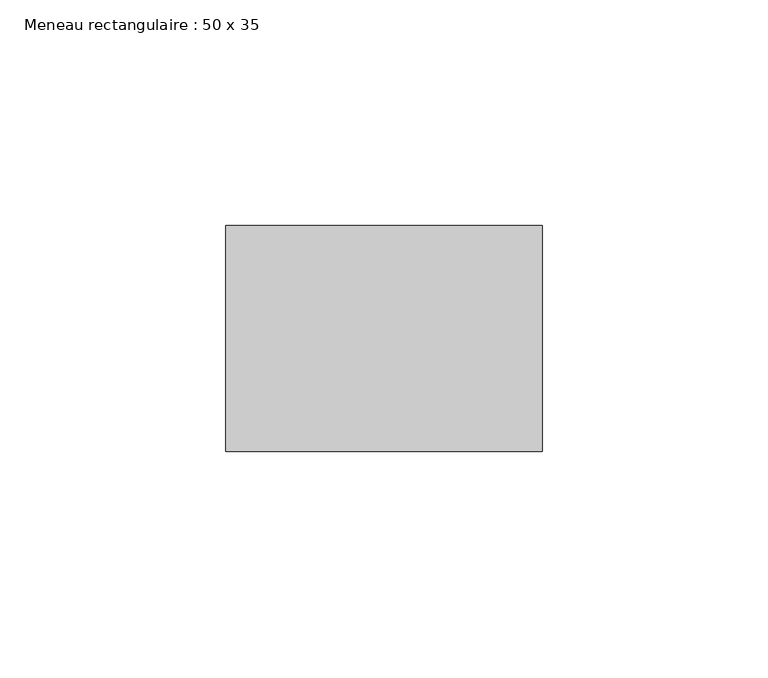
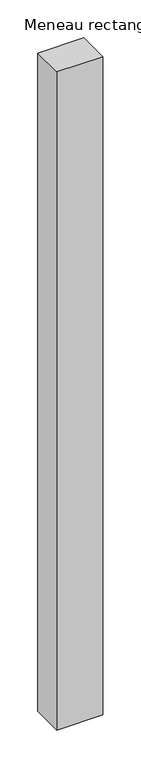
"""IFC4 building model written with IfcOpenShell, lengths in millimetres: member geometry, Meneau rectangulaire : 50 x 35."""

import ifcopenshell
import ifcopenshell.guid

model = None  # the IFC model being written
_history = None  # IfcOwnerHistory: only IFC2X3 demands one
_inside = {}  # id of a spatial element -> (the spatial element, [elements in it])
_under = {}  # id of a project, library or spatial element -> (it, [spatial elements below it])
_declared = {}  # id of a project -> (the project, [libraries it declares])
_typed = {}  # id of a type object -> (the type object, [elements of that type])
_made_of = {}  # id of a material, layer set ... -> (it, [elements and type objects made of it])


def new_model(schema):
    """Start an empty IFC model of exactly this schema.

    Asked for "IFC4X3", IfcOpenShell would pick the latest addendum, in which some entities
    have other attributes; the version numbers below select the first issue.
    IFC2X3 requires an IfcOwnerHistory on every rooted entity: one is made here for all.
    """
    global model, _history
    if schema == "IFC4X3":
        model = ifcopenshell.file(schema_version=(4, 3, 0, 0))
    else:
        model = ifcopenshell.file(schema=schema)
    _inside.clear()
    _under.clear()
    _declared.clear()
    _typed.clear()
    _made_of.clear()
    _history = None
    if model.schema == "IFC2X3":
        org = make("IfcOrganization", Name="unknown")
        user = make(
            "IfcPersonAndOrganization",
            ThePerson=make("IfcPerson", FamilyName="unknown"),
            TheOrganization=org,
        )
        app = make(
            "IfcApplication",
            ApplicationDeveloper=org,
            Version="unknown",
            ApplicationFullName="unknown",
            ApplicationIdentifier="unknown",
        )
        _history = make(
            "IfcOwnerHistory",
            OwningUser=user,
            OwningApplication=app,
            ChangeAction="ADDED",
            CreationDate=0,
        )
    return model


def make(cls, **values):
    """One entity of the class cls with the attributes given. An attribute that is None is left unset."""
    return model.create_entity(
        cls, **{name: value for name, value in values.items() if value is not None}
    )


def rooted(cls, **values):
    """An entity with a GlobalId (a new one), such as an element, a storey or a relation."""
    return make(cls, GlobalId=ifcopenshell.guid.new(), OwnerHistory=_history, **values)


def si_unit(unit_type, name, prefix=None):
    """IfcSIUnit, for example si_unit("LENGTHUNIT", "METRE", prefix="MILLI")."""
    return make("IfcSIUnit", UnitType=unit_type, Prefix=prefix, Name=name)


def assignment(units):
    """IfcUnitAssignment: the units of a project."""
    return None if units is None else make("IfcUnitAssignment", Units=units)


def point(xyz):
    """IfcCartesianPoint."""
    return None if xyz is None else make("IfcCartesianPoint", Coordinates=xyz)


def direction(xyz):
    """IfcDirection."""
    return None if xyz is None else make("IfcDirection", DirectionRatios=xyz)


def frame(location, z_axis=None, x_axis=None):
    """IfcAxis2Placement3D, a coordinate frame: its origin and axes. An axis left out is left unset."""
    return make(
        "IfcAxis2Placement3D",
        Location=point(location),
        Axis=direction(z_axis),
        RefDirection=direction(x_axis),
    )


def origin():
    """The frame at (0, 0, 0) with its axes left unset."""
    return frame((0.0, 0.0, 0.0))


def place(relative_to, where):
    """IfcLocalPlacement: puts the frame where relative to a parent placement (None: the world)."""
    return make(
        "IfcLocalPlacement", PlacementRelTo=relative_to, RelativePlacement=where
    )


def context(
    kind, dimensions, precision=None, world=None, true_north=None, identifier=None
):
    """IfcGeometricRepresentationContext, for example the 3D "Model" context."""
    return make(
        "IfcGeometricRepresentationContext",
        ContextIdentifier=identifier,
        ContextType=kind,
        CoordinateSpaceDimension=dimensions,
        Precision=precision,
        WorldCoordinateSystem=world,
        TrueNorth=true_north,
    )


def project(units=None, contexts=None):
    """IfcProject with its units and contexts."""
    return rooted(
        "IfcProject",
        Name="project",
        RepresentationContexts=contexts,
        UnitsInContext=assignment(units),
    )


def spatial(cls, under=None, at=None, **own):
    """A site, building, storey or space (cls), placed at a placement, below another one or the project."""
    s = rooted(cls, ObjectPlacement=at, **own)
    if under is not None:
        _under.setdefault(under.id(), (under, []))[1].append(s)
    return s


def polyline(points):
    """IfcPolyline through the points."""
    return make("IfcPolyline", Points=[point(p) for p in points])


def outline(outer, holes=None, kind="AREA"):
    """IfcArbitraryClosedProfileDef: a profile drawn as a closed curve; with holes, ...WithVoids."""
    if holes is None:
        return make("IfcArbitraryClosedProfileDef", ProfileType=kind, OuterCurve=outer)
    return make(
        "IfcArbitraryProfileDefWithVoids",
        ProfileType=kind,
        OuterCurve=outer,
        InnerCurves=holes,
    )


def extrude(swept, where, along, depth):
    """IfcExtrudedAreaSolid: the profile swept, set in the frame where, extruded along a direction by depth."""
    return make(
        "IfcExtrudedAreaSolid",
        SweptArea=swept,
        Position=where,
        ExtrudedDirection=direction(along),
        Depth=depth,
    )


def shape(context_of_items, identifier, shape_type, items):
    """IfcShapeRepresentation: the items that make up one representation, for example the "Body"."""
    return make(
        "IfcShapeRepresentation",
        ContextOfItems=context_of_items,
        RepresentationIdentifier=identifier,
        RepresentationType=shape_type,
        Items=items,
    )


def source(mapping_origin, context_of_items, identifier, shape_type, items):
    """IfcRepresentationMap: a shape defined once, which mapped items show again and again."""
    return make(
        "IfcRepresentationMap",
        MappingOrigin=mapping_origin,
        MappedRepresentation=shape(context_of_items, identifier, shape_type, items),
    )


def transform(
    local_origin,
    x_axis=None,
    y_axis=None,
    z_axis=None,
    scale=None,
    scale2=None,
    scale3=None,
    uniform=True,
):
    """IfcCartesianTransformationOperator3D, or its non-uniform kind. x_axis, y_axis, z_axis: its Axis1, 2, 3."""
    if uniform:
        return make(
            "IfcCartesianTransformationOperator3D",
            Axis1=direction(x_axis),
            Axis2=direction(y_axis),
            LocalOrigin=point(local_origin),
            Scale=scale,
            Axis3=direction(z_axis),
        )
    return make(
        "IfcCartesianTransformationOperator3DnonUniform",
        Axis1=direction(x_axis),
        Axis2=direction(y_axis),
        LocalOrigin=point(local_origin),
        Scale=scale,
        Axis3=direction(z_axis),
        Scale2=scale2,
        Scale3=scale3,
    )


def mapped(mapping_source, mapping_target):
    """IfcMappedItem: shows the shape of a source again, moved by a transform."""
    return make(
        "IfcMappedItem", MappingSource=mapping_source, MappingTarget=mapping_target
    )


def made_of(thing, what):
    """Note that an element or type object is made of a material, layer set ...; save() writes the relation."""
    if what is not None:
        _made_of.setdefault(what.id(), (what, []))[1].append(thing)
    return thing


def element(
    cls,
    number,
    at=None,
    inside=None,
    cuts=None,
    type_object=None,
    material=None,
    context=None,
    identifier="Body",
    shape_type=None,
    held_by="IfcProductDefinitionShape",
    body=None,
    shapes=None,
    **own,
):
    """One element of the class cls, such as IfcWall. Its Tag is "e" and its number.

    at: its placement. inside: the storey or other place that contains it. cuts: it is an
    opening in that element (IfcRelVoidsElement). A single representation is given by context,
    identifier, shape_type and body (its items); several are given by shapes. held_by: the class
    of the entity that holds the representations. save() writes the other relations.
    """
    e = rooted(cls, Tag="e%d" % number, ObjectPlacement=at, **own)
    if body is not None:
        shapes = [shape(context, identifier, shape_type, body)]
    if shapes is not None:
        e.Representation = make(held_by, Representations=shapes)
    if inside is not None:
        _inside.setdefault(inside.id(), (inside, []))[1].append(e)
    if cuts is not None:
        rooted(
            "IfcRelVoidsElement", RelatingBuildingElement=cuts, RelatedOpeningElement=e
        )
    if type_object is not None:
        _typed.setdefault(type_object.id(), (type_object, []))[1].append(e)
    return made_of(e, material)


def aggregate(whole, parts):
    """IfcRelAggregates: a whole, such as a stair, and the parts it consists of."""
    return rooted("IfcRelAggregates", RelatingObject=whole, RelatedObjects=parts)


def save(model, path):
    """Write the relations noted so far, then the file.

    IfcRelAggregates (storeys below a building ...), IfcRelContainedInSpatialStructure (elements
    in a storey), IfcRelDefinesByType, IfcRelAssociatesMaterial and IfcRelDeclares: one each for
    every whole, place, type object, material and project.
    """
    for whole, parts in _under.values():
        aggregate(whole, parts)
    for where, things in _inside.values():
        rooted(
            "IfcRelContainedInSpatialStructure",
            RelatedElements=things,
            RelatingStructure=where,
        )
    for kind, things in _typed.values():
        rooted("IfcRelDefinesByType", RelatedObjects=things, RelatingType=kind)
    for what, things in _made_of.values():
        rooted("IfcRelAssociatesMaterial", RelatedObjects=things, RelatingMaterial=what)
    for by, libraries in _declared.values():
        rooted("IfcRelDeclares", RelatingContext=by, RelatedDefinitions=libraries)
    model.write(path)


def meneau_rectangulaire_50_x_35_1321c345(model_context):
    return source(origin(), model_context, "Body", "SweptSolid", [
        extrude(outline(polyline([(35.0, 0.0), (35.0, -50.0), (-35.0, -50.0), (-35.0, 0.0), (35.0, 0.0)])), frame((0.0, 0.0, -1060.0), z_axis=(0.0, 0.0, 1.0), x_axis=(1.0, 0.0, 0.0)), (0.0, 0.0, 1.0), 1060.0),
    ])


if __name__ == "__main__":
    model = new_model("IFC4")
    model_context = context("Model", 3, world=origin())
    ifc_project = project(units=[si_unit("LENGTHUNIT", "METRE", prefix="MILLI")], contexts=[model_context])
    site = spatial("IfcSite", under=ifc_project)
    building = spatial("IfcBuilding", under=site)
    placement = place(None, origin())
    meneau_rectangulaire_50_x_35_shape = meneau_rectangulaire_50_x_35_1321c345(model_context)
    element("IfcMember", 1, ObjectType="Meneau rectangulaire : 50 x 35", at=placement, inside=building, context=model_context, shape_type="MappedRepresentation", body=[
        mapped(meneau_rectangulaire_50_x_35_shape, transform((0.0, 0.0, 0.0), x_axis=(1.0, 0.0, 0.0), y_axis=(0.0, 1.0, 0.0), z_axis=(0.0, 0.0, 1.0))),
    ])
    save(model, "model.ifc")
